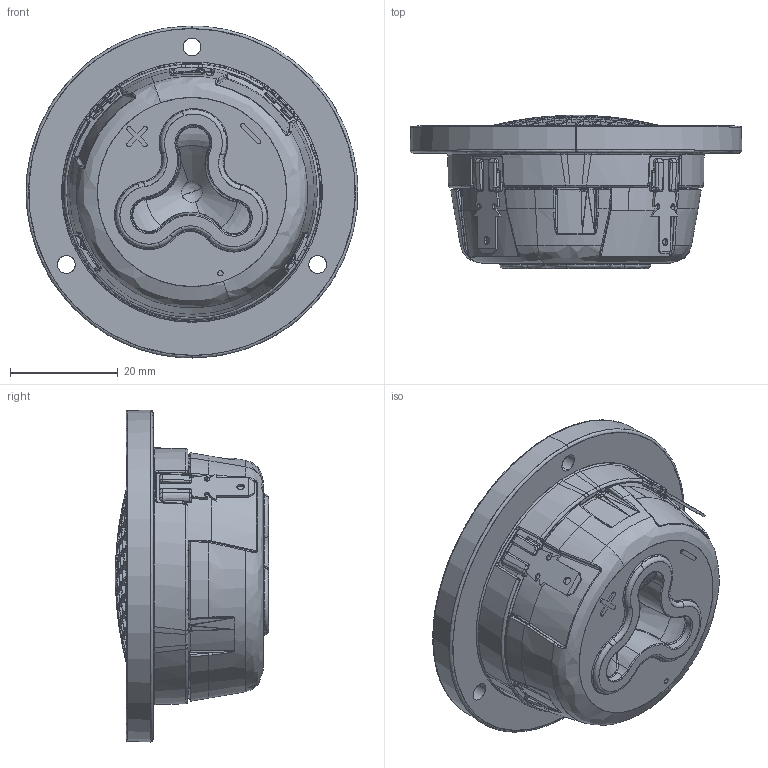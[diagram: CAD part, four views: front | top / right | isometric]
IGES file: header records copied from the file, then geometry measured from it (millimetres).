
Start section: SolidWorks IGES file using analytic representation for surfaces
Global section: file name: W:\TT\WEB 3D ENHEDER VER2\D3004_604000\D3004-604000.IGS; native system: SolidWorks 2019; preprocessor: SolidWorks 2019; author: mhn; date: 201029.092751; units: millimetre
Bounding box: 61.66 x 28.48 x 61.66 mm (x, y, z)
Surface area: 13083.2 mm2 (no closed solid volume)
Topology: 0 solids, 0 shells, 1945 faces, 15315 edges, 15290 vertices
Faces by surface type: bspline 1525, revolution 420
